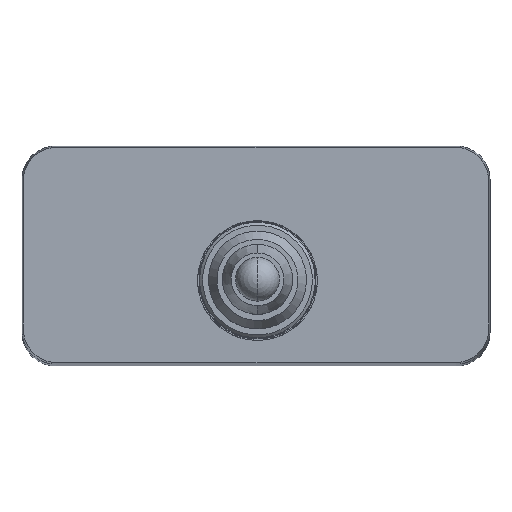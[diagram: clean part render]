
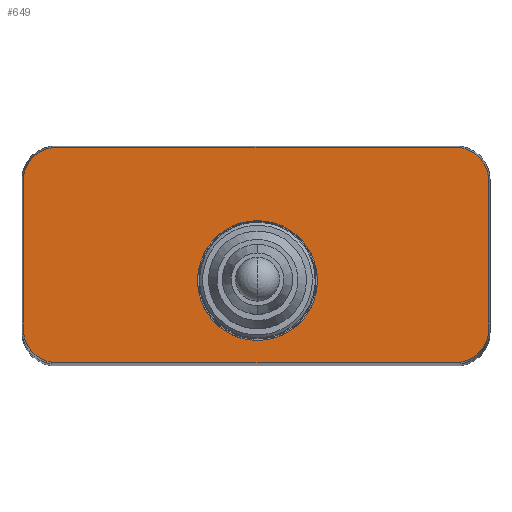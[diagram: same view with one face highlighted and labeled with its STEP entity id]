
A CAD part, top view. The second image highlights one B-rep face of the part: STEP entity #649.
In plain terms, the highlighted planar face has unit normal (0, 0, 1).
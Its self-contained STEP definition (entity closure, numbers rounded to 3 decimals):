
#427=ELLIPSE('',#2096,2.302,2.3);
#428=ELLIPSE('',#2097,2.302,2.3);
#429=ELLIPSE('',#2098,2.302,2.3);
#430=ELLIPSE('',#2099,2.302,2.3);
#470=FACE_BOUND('',#878,.T.);
#471=FACE_BOUND('',#879,.T.);
#560=CIRCLE('',#2094,4.1);
#649=ADVANCED_FACE('',(#470,#471),#722,.T.);
#722=PLANE('',#2100);
#878=EDGE_LOOP('',(#1261));
#879=EDGE_LOOP('',(#1262,#1263,#1264,#1265,#1266,#1267,#1268,#1269));
#1261=ORIENTED_EDGE('',*,*,#1721,.F.);
#1262=ORIENTED_EDGE('',*,*,#1719,.T.);
#1263=ORIENTED_EDGE('',*,*,#1722,.T.);
#1264=ORIENTED_EDGE('',*,*,#1715,.T.);
#1265=ORIENTED_EDGE('',*,*,#1723,.T.);
#1266=ORIENTED_EDGE('',*,*,#1713,.T.);
#1267=ORIENTED_EDGE('',*,*,#1724,.T.);
#1268=ORIENTED_EDGE('',*,*,#1710,.T.);
#1269=ORIENTED_EDGE('',*,*,#1725,.T.);
#1504=VERTEX_POINT('',#3086);
#1505=VERTEX_POINT('',#3088);
#1506=VERTEX_POINT('',#3092);
#1507=VERTEX_POINT('',#3094);
#1508=VERTEX_POINT('',#3098);
#1509=VERTEX_POINT('',#3099);
#1510=VERTEX_POINT('',#3104);
#1511=VERTEX_POINT('',#3106);
#1512=VERTEX_POINT('',#3110);
#1710=EDGE_CURVE('',#1505,#1504,#1860,.T.);
#1713=EDGE_CURVE('',#1507,#1506,#1863,.T.);
#1715=EDGE_CURVE('',#1508,#1509,#1865,.T.);
#1719=EDGE_CURVE('',#1511,#1510,#1869,.T.);
#1721=EDGE_CURVE('',#1512,#1512,#560,.T.);
#1722=EDGE_CURVE('',#1510,#1508,#427,.T.);
#1723=EDGE_CURVE('',#1509,#1507,#428,.T.);
#1724=EDGE_CURVE('',#1506,#1505,#429,.T.);
#1725=EDGE_CURVE('',#1504,#1511,#430,.T.);
#1860=LINE('',#3087,#1960);
#1863=LINE('',#3093,#1963);
#1865=LINE('',#3097,#1965);
#1869=LINE('',#3105,#1969);
#1960=VECTOR('',#2477,1.);
#1963=VECTOR('',#2482,1.);
#1965=VECTOR('',#2486,1.);
#1969=VECTOR('',#2492,1.);
#2094=AXIS2_PLACEMENT_3D('',#3109,#2496,#2497);
#2096=AXIS2_PLACEMENT_3D('',#3112,#2500,#2501);
#2097=AXIS2_PLACEMENT_3D('',#3113,#2502,#2503);
#2098=AXIS2_PLACEMENT_3D('',#3114,#2504,#2505);
#2099=AXIS2_PLACEMENT_3D('',#3115,#2506,#2507);
#2100=AXIS2_PLACEMENT_3D('',#3116,#2508,#2509);
#2477=DIRECTION('',(0.,1.,0.));
#2482=DIRECTION('',(1.,0.,0.));
#2486=DIRECTION('',(0.,-1.,0.));
#2492=DIRECTION('',(-1.,0.,0.));
#2496=DIRECTION('',(0.,0.,1.));
#2497=DIRECTION('',(1.,0.,0.));
#2500=DIRECTION('',(0.,0.,1.));
#2501=DIRECTION('',(-0.707,0.707,0.));
#2502=DIRECTION('',(0.,0.,1.));
#2503=DIRECTION('',(-0.707,-0.707,0.));
#2504=DIRECTION('',(0.,0.,1.));
#2505=DIRECTION('',(0.707,-0.707,0.));
#2506=DIRECTION('',(0.,0.,1.));
#2507=DIRECTION('',(0.707,0.707,0.));
#2508=DIRECTION('',(0.,0.,1.));
#2509=DIRECTION('',(1.,0.,0.));
#3086=CARTESIAN_POINT('',(15.164,4.814,2.2));
#3087=CARTESIAN_POINT('',(15.164,-0.25,2.2));
#3088=CARTESIAN_POINT('',(15.164,-5.314,2.2));
#3092=CARTESIAN_POINT('',(12.864,-7.614,2.2));
#3093=CARTESIAN_POINT('',(0.,-7.614,2.2));
#3094=CARTESIAN_POINT('',(-14.364,-7.614,2.2));
#3097=CARTESIAN_POINT('',(-16.664,-0.25,2.2));
#3098=CARTESIAN_POINT('',(-16.664,4.814,2.2));
#3099=CARTESIAN_POINT('',(-16.664,-5.314,2.2));
#3104=CARTESIAN_POINT('',(-14.364,7.114,2.2));
#3105=CARTESIAN_POINT('',(0.,7.114,2.2));
#3106=CARTESIAN_POINT('',(12.864,7.114,2.2));
#3109=CARTESIAN_POINT('',(-0.65,-2.,2.2));
#3110=CARTESIAN_POINT('',(3.45,-2.,2.2));
#3112=CARTESIAN_POINT('',(-14.363,4.813,2.2));
#3113=CARTESIAN_POINT('',(-14.363,-5.313,2.2));
#3114=CARTESIAN_POINT('',(12.863,-5.313,2.2));
#3115=CARTESIAN_POINT('',(12.863,4.813,2.2));
#3116=CARTESIAN_POINT('',(-11.75,3.6,2.2));
